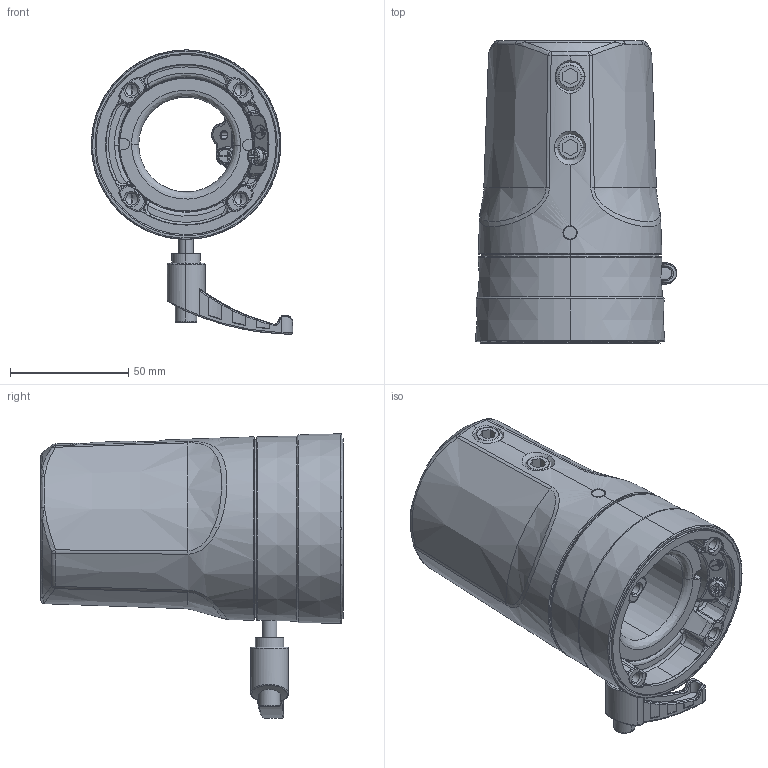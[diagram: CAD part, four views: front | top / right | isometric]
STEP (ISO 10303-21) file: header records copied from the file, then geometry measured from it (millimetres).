
FILE_DESCRIPTION (( 'STEP AP203' ), '1' );
FILE_NAME ('s2mfc48.STEP', '2019-12-09T19:15:05', ( '' ), ( '' ), 'SwSTEP 2.0', 'SolidWorks 2016', '' );
FILE_SCHEMA (( 'CONFIG_CONTROL_DESIGN' ));
Length unit declared in the file: inch
Products named in the file (2): s2mfc48; 87948809
Assembly tree (1 placements, depth 2):
  s2mfc48
    87948809
Bounding box: 84.96 x 127.5 x 119.99 mm (x, y, z)
Surface area: 99373 mm2 (no closed solid volume)
Topology: 0 solids, 24 shells, 912 faces, 2264 edges, 1373 vertices
Faces by surface type: bspline 348, cylinder 237, plane 176, cone 151
Entity records: 43841 total; most frequent: CARTESIAN_POINT 24909, ORIENTED_EDGE 4411, DIRECTION 3287, EDGE_CURVE 2230, VERTEX_POINT 1373, AXIS2_PLACEMENT_3D 1332, EDGE_LOOP 961, FACE_OUTER_BOUND 912
